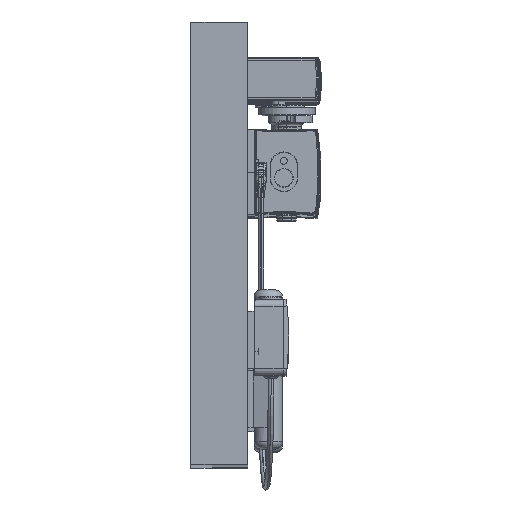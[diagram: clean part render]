
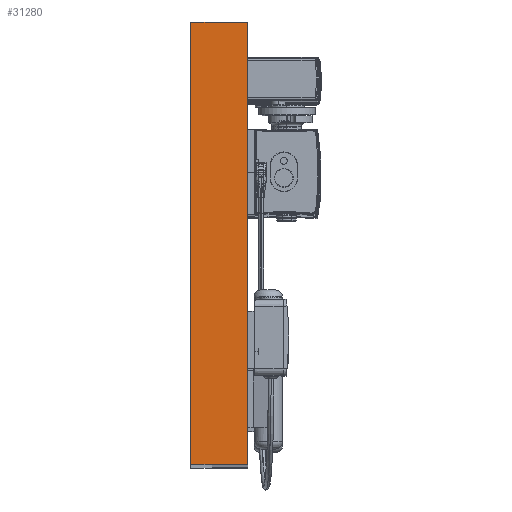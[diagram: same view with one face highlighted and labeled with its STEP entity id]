
A CAD part, top view. The second image highlights one B-rep face of the part: STEP entity #31280.
In plain terms, the highlighted planar face has unit normal (0, 0, 1).
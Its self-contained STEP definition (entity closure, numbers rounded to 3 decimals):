
#27680=CARTESIAN_POINT('',(8.,-308.55,172.75));
#27690=VERTEX_POINT('',#27680);
#27720=CARTESIAN_POINT('',(8.,-0.5,172.75));
#27730=DIRECTION('',(0.,-1.,0.));
#27740=VECTOR('',#27730,1.);
#27750=LINE('',#27720,#27740);
#27760=CARTESIAN_POINT('',(8.,2.85,172.75));
#27770=VERTEX_POINT('',#27760);
#27780=EDGE_CURVE('',#27770,#27690,#27750,.T.);
#30340=CARTESIAN_POINT('',(-32.,-0.5,172.75));
#30350=DIRECTION('',(0.,-1.,0.));
#30360=VECTOR('',#30350,1.);
#30370=LINE('',#30340,#30360);
#30380=CARTESIAN_POINT('',(-32.,2.85,172.75));
#30390=VERTEX_POINT('',#30380);
#30400=CARTESIAN_POINT('',(-32.,-308.55,172.75));
#30410=VERTEX_POINT('',#30400);
#30420=EDGE_CURVE('',#30390,#30410,#30370,.T.);
#31010=CARTESIAN_POINT('',(0.,-308.55,172.75));
#31020=DIRECTION('',(-1.,0.,0.));
#31030=VECTOR('',#31020,1.);
#31040=LINE('',#31010,#31030);
#31050=EDGE_CURVE('',#27690,#30410,#31040,.T.);
#31120=CARTESIAN_POINT('',(-57.,-77.15,172.75));
#31130=DIRECTION('',(-0.,0.,1.));
#31140=DIRECTION('',(0.,-1.,0.));
#31150=AXIS2_PLACEMENT_3D('',#31120,#31130,#31140);
#31160=PLANE('',#31150);
#31170=ORIENTED_EDGE('',*,*,#30420,.T.);
#31180=CARTESIAN_POINT('',(0.,2.85,172.75));
#31190=DIRECTION('',(1.,0.,0.));
#31200=VECTOR('',#31190,1.);
#31210=LINE('',#31180,#31200);
#31220=EDGE_CURVE('',#30390,#27770,#31210,.T.);
#31230=ORIENTED_EDGE('',*,*,#31220,.F.);
#31240=ORIENTED_EDGE('',*,*,#27780,.F.);
#31250=ORIENTED_EDGE('',*,*,#31050,.F.);
#31260=EDGE_LOOP('',(#31250,#31240,#31230,#31170));
#31270=FACE_OUTER_BOUND('',#31260,.T.);
#31280=ADVANCED_FACE('',(#31270),#31160,.T.);
